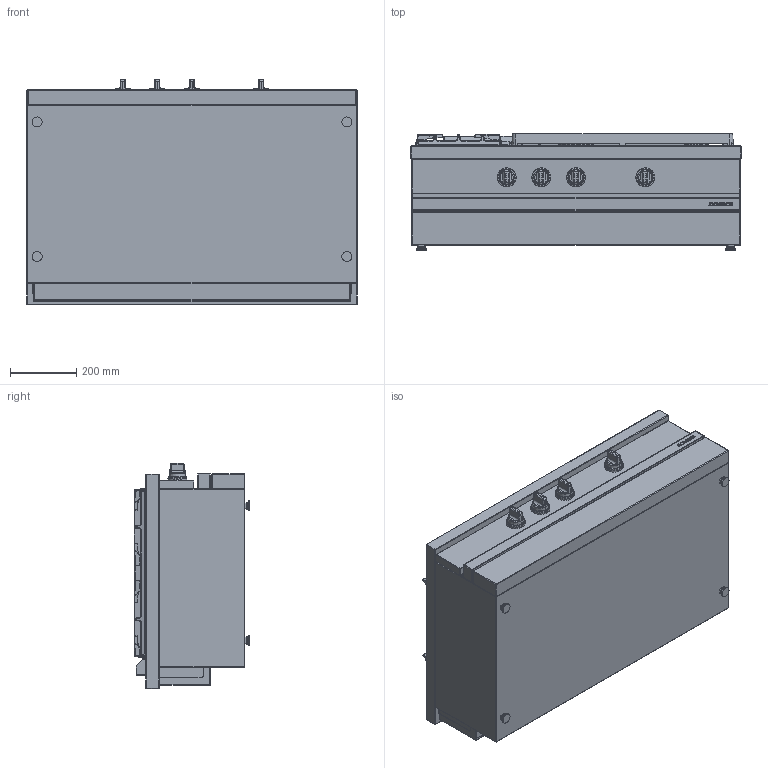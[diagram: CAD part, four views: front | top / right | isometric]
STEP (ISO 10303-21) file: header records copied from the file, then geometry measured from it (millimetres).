
FILE_DESCRIPTION((''),'2;1');
FILE_NAME('CSG1040GCF_EXPORT_STEP_ASM','2017-11-22T',('r.avril'),(''),'PRO/ENGINEER BY PARAMETRIC TECHNOLOGY CORPORATION, 2014200','PRO/ENGINEER BY PARAMETRIC TECHNOLOGY CORPORATION, 2014200','');
FILE_SCHEMA(('AP203_CONFIGURATION_CONTROLLED_3D_DESIGN_OF_MECHANICAL_PARTS_AND_ASSEMBLIES_MIM_LF { 1 0 10303 403 2 1 2 }'));
Products named in the file (14): SNACKS_AMB_1000_EXPORT_STEP; TABLE_1000_CLASSIQUE; 3KW; 5KW; 1_5KW; 65062009; 65149005; 65062012; 90000894_ASM; 6537024; 90000487_ASM; TABLE_1000_GCF_ASM; MANETTE_AMB_EXPORT_STEP; CSG1040GCF_EXPORT_STEP_ASM
Assembly tree (26 placements, depth 4):
  CSG1040GCF_EXPORT_STEP_ASM
    SNACKS_AMB_1000_EXPORT_STEP
    TABLE_1000_GCF_ASM
      TABLE_1000_CLASSIQUE
      3KW  x2
      5KW
      1_5KW
      90000894_ASM
        65062009
        65149005  x6
        65062012
      90000487_ASM
        6537024
        65149005  x4
    MANETTE_AMB_EXPORT_STEP  x4
Bounding box: 1000 x 351 x 682.5 mm (x, y, z)
Volume: 75164428.9 mm3; surface area: 5986230.2 mm2
Topology: 30 solids, 48 shells, 3032 faces, 8336 edges, 5736 vertices
Faces by surface type: plane 1214, cylinder 795, bspline 562, cone 171, sphere 144, torus 126, extrusion 20
Entity records: 133147 total; most frequent: CARTESIAN_POINT 40338, ORIENTED_EDGE 13430, DIRECTION 12084, PRESENTATION_STYLE_ASSIGNMENT 6941, STYLED_ITEM 6941, EDGE_CURVE 6940, CURVE_STYLE 6183, VERTEX_POINT 4360
